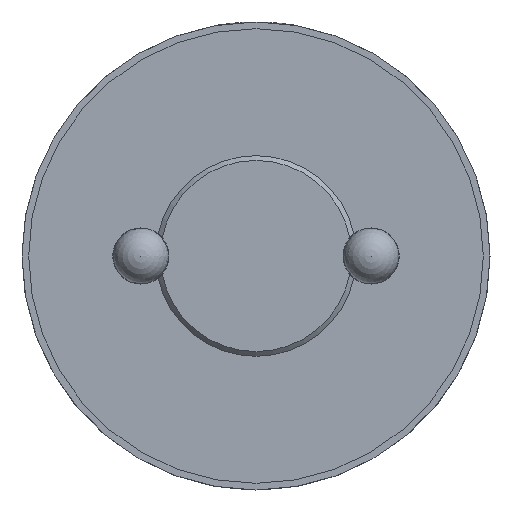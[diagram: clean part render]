
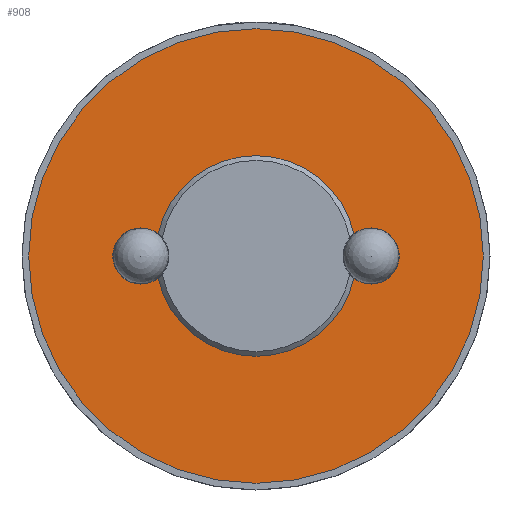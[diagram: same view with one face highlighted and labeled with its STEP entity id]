
A CAD part, left-side view. The second image highlights one B-rep face of the part: STEP entity #908.
In plain terms, the highlighted planar face has unit normal (-1, 0, 0).
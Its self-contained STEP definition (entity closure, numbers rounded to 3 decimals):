
#44=PLANE('',#993);
#127=CIRCLE('',#989,3.);
#128=CIRCLE('',#991,6.8);
#130=CIRCLE('',#994,3.);
#131=CIRCLE('',#995,0.84);
#132=CIRCLE('',#996,0.84);
#230=ORIENTED_EDGE('',*,*,#476,.F.);
#231=ORIENTED_EDGE('',*,*,#477,.T.);
#232=ORIENTED_EDGE('',*,*,#465,.F.);
#233=ORIENTED_EDGE('',*,*,#478,.T.);
#234=ORIENTED_EDGE('',*,*,#474,.T.);
#465=EDGE_CURVE('',#592,#593,#127,.T.);
#474=EDGE_CURVE('',#601,#601,#128,.T.);
#476=EDGE_CURVE('',#603,#604,#130,.T.);
#477=EDGE_CURVE('',#603,#593,#131,.T.);
#478=EDGE_CURVE('',#592,#604,#132,.T.);
#592=VERTEX_POINT('',#1391);
#593=VERTEX_POINT('',#1393);
#601=VERTEX_POINT('',#1423);
#603=VERTEX_POINT('',#1428);
#604=VERTEX_POINT('',#1429);
#742=EDGE_LOOP('',(#230,#231,#232,#233));
#743=EDGE_LOOP('',(#234));
#818=FACE_BOUND('',#742,.T.);
#819=FACE_BOUND('',#743,.T.);
#908=ADVANCED_FACE('',(#818,#819),#44,.F.);
#989=AXIS2_PLACEMENT_3D('',#1392,#1113,#1114);
#991=AXIS2_PLACEMENT_3D('',#1422,#1121,#1122);
#993=AXIS2_PLACEMENT_3D('',#1426,#1125,#1126);
#994=AXIS2_PLACEMENT_3D('',#1427,#1127,#1128);
#995=AXIS2_PLACEMENT_3D('',#1430,#1129,#1130);
#996=AXIS2_PLACEMENT_3D('',#1431,#1131,#1132);
#1113=DIRECTION('',(-1.,0.,0.));
#1114=DIRECTION('',(0.,0.,1.));
#1121=DIRECTION('',(-1.,0.,0.));
#1122=DIRECTION('',(0.,0.,1.));
#1125=DIRECTION('',(1.,0.,0.));
#1126=DIRECTION('',(0.,0.,-1.));
#1127=DIRECTION('',(-1.,0.,0.));
#1128=DIRECTION('',(0.,0.,1.));
#1129=DIRECTION('',(1.,0.,0.));
#1130=DIRECTION('',(0.,-1.,0.));
#1131=DIRECTION('',(1.,0.,0.));
#1132=DIRECTION('',(0.,1.,0.));
#1391=CARTESIAN_POINT('',(-12.5,-2.926,0.661));
#1392=CARTESIAN_POINT('',(-12.5,0.,0.));
#1393=CARTESIAN_POINT('',(-12.5,2.926,0.661));
#1422=CARTESIAN_POINT('',(-12.5,0.,0.));
#1423=CARTESIAN_POINT('',(-12.5,0.,6.8));
#1426=CARTESIAN_POINT('',(-12.5,6.8,0.));
#1427=CARTESIAN_POINT('',(-12.5,0.,0.));
#1428=CARTESIAN_POINT('',(-12.5,2.926,-0.661));
#1429=CARTESIAN_POINT('',(-12.5,-2.926,-0.661));
#1430=CARTESIAN_POINT('',(-12.5,3.445,0.));
#1431=CARTESIAN_POINT('',(-12.5,-3.445,0.));
